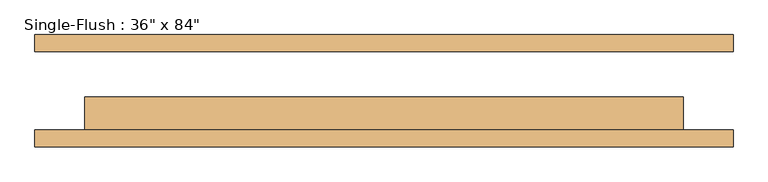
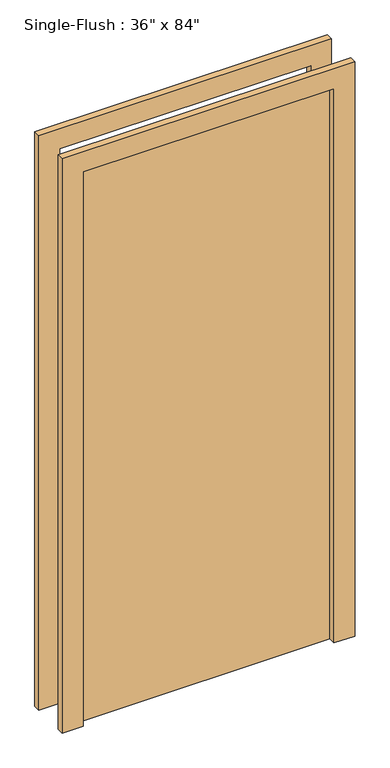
"""IFC4 building model written with IfcOpenShell, lengths in millimetres: door geometry."""

from ifc_helpers import new_model, si_unit, frame, origin, origin_with_axes, place, context, project, spatial, polyline, outline, extrude, source, transform, mapped, element, save


def door_805e9a83(model_context):
    return source(origin(), model_context, "Body", "SweptSolid", [
        extrude(outline(polyline([(2209.8, -533.4), (0.0, -533.4), (0.0, -457.2), (2133.6, -457.2), (2133.6, 457.2), (0.0, 457.2), (0.0, 533.4), (2209.8, 533.4), (2209.8, -533.4)])), frame((0.0, -85.725, 0.0), z_axis=(0.0, 1.0, 0.0), x_axis=(0.0, 0.0, 1.0)), (0.0, 0.0, 1.0), 25.4),
        extrude(outline(polyline([(2209.8, 533.4), (2209.8, -533.4), (0.0, -533.4), (0.0, -457.2), (2133.6, -457.2), (2133.6, 457.2), (0.0, 457.2), (0.0, 533.4), (2209.8, 533.4)])), frame((0.0, 60.325, 0.0), z_axis=(0.0, 1.0, 0.0), x_axis=(0.0, 0.0, 1.0)), (0.0, 0.0, 1.0), 25.4),
        extrude(outline(polyline([(457.2, -9.525), (457.2, -60.325), (-457.2, -60.325), (-457.2, -9.525), (457.2, -9.525)])), origin_with_axes(), (0.0, 0.0, 1.0), 2133.6),
    ])


if __name__ == "__main__":
    model = new_model("IFC4")
    model_context = context("Model", 3, world=origin())
    ifc_project = project(units=[si_unit("LENGTHUNIT", "METRE", prefix="MILLI")], contexts=[model_context])
    site = spatial("IfcSite", under=ifc_project)
    building = spatial("IfcBuilding", under=site)
    placement = place(None, origin())
    door_shape = door_805e9a83(model_context)
    element("IfcDoor", 1, ObjectType="Single-Flush : 36\" x 84\"", at=placement, inside=building, context=model_context, shape_type="MappedRepresentation", body=[
        mapped(door_shape, transform((0.0, 0.0, 0.0), x_axis=(1.0, 0.0, 0.0), y_axis=(0.0, 1.0, 0.0), z_axis=(0.0, 0.0, 1.0))),
    ])
    save(model, "model.ifc")
